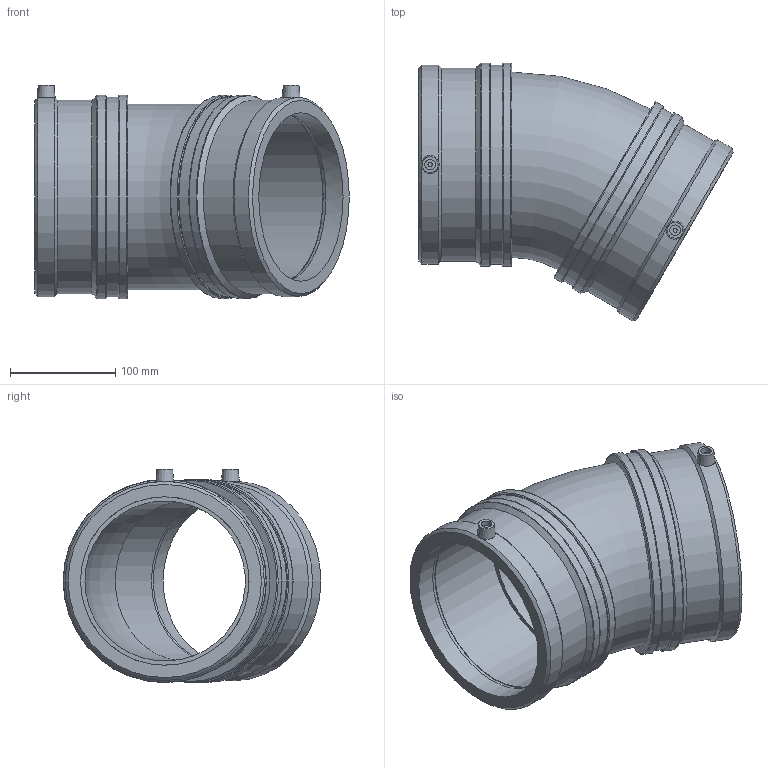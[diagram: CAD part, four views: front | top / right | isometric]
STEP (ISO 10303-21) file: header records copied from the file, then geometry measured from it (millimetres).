
FILE_DESCRIPTION(/* description */ ('PLASSON 30° LIGHTFIT ELBOW 160'),/* implementation_level */ '2;1');
FILE_NAME(/* name */ 'C:\Dropbox\KIMPROJECTS-Inventor\99-16-3568-Processing\ElectroFusion Fittings\46330\463304160_473304160.ipt.stp',/* time_stamp */ '2017-11-06T09:09:46+02:00',/* author */ ('KIM'),/* organization */ (''),/* preprocessor_version */ 'ST-DEVELOPER v15.6',/* originating_system */ 'Autodesk Inventor 2015',/* authorisation */ '');
FILE_SCHEMA (('AUTOMOTIVE_DESIGN { 1 0 10303 214 3 1 1 }'));
Length unit declared in the file: millimetre
Products named in the file (1): 463304160_473304160
Bounding box: 298.58 x 244.7 x 202.5 mm (x, y, z)
Volume: 1863785.7 mm3; surface area: 325833.4 mm2
Topology: 1 solids, 1 shells, 58 faces, 111 edges, 69 vertices
Faces by surface type: cylinder 18, plane 18, cone 12, torus 10
Full cylindrical faces by diameter (mm): 4 x2, 10 x2, 160 x4, 183.466 x2, 189.14 x2, 193 x4
Entity records: 1606 total; most frequent: CARTESIAN_POINT 585, DIRECTION 222, ORIENTED_EDGE 132, AXIS2_PLACEMENT_3D 111, EDGE_LOOP 110, EDGE_CURVE 66, VERTEX_POINT 60, FACE_OUTER_BOUND 58
